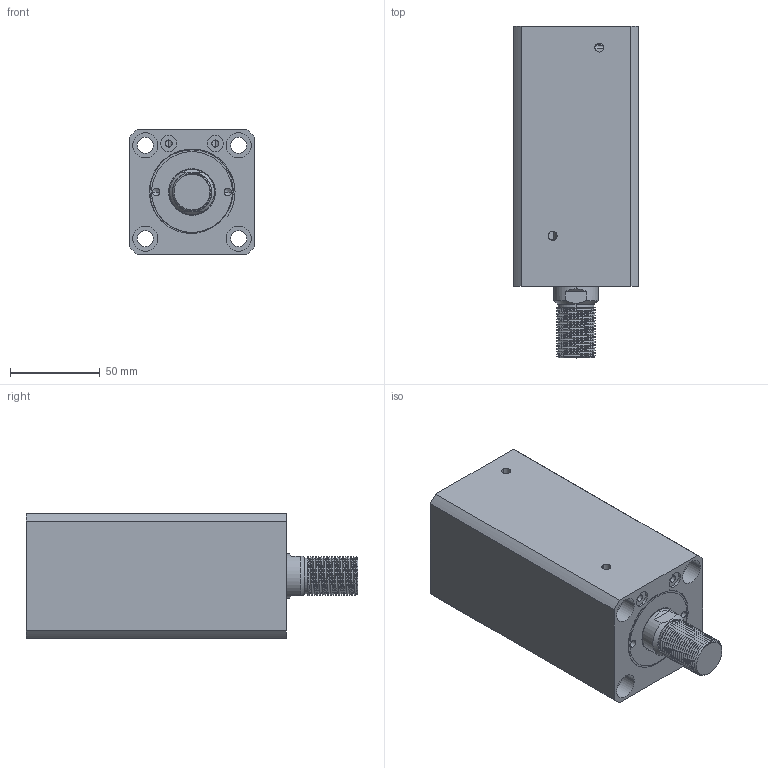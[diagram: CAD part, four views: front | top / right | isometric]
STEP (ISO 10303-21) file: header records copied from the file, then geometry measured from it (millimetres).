
FILE_DESCRIPTION (( 'STEP AP214' ), '1' );
FILE_NAME ('chtb-sdma40x90w_asm.STEP', '2018-06-06T02:34:02', ( 'Windows' ), ( 'Microsoft' ), 'SwSTEP 2.0', 'SolidWorks 2015', '' );
FILE_SCHEMA (( 'AUTOMOTIVE_DESIGN' ));
Length unit declared in the file: millimetre
Products named in the file (4): CHTB-SD40QG; CHTB-SDMA40X90NBT; CHTB-SD40X90WHSG; chtb-sdma40x90w_asm
Assembly tree (3 placements, depth 2):
  chtb-sdma40x90w_asm
    CHTB-SD40X90WHSG
    CHTB-SDMA40X90NBT
    CHTB-SD40QG
Bounding box: 70 x 185 x 70 mm (x, y, z)
Volume: 600765.5 mm3; surface area: 116602.2 mm2
Topology: 3 solids, 4 shells, 203 faces, 545 edges, 363 vertices
Faces by surface type: cylinder 122, plane 40, bspline 16, torus 14, cone 11
Entity records: 13587 total; most frequent: CARTESIAN_POINT 8658, ORIENTED_EDGE 1078, DIRECTION 914, EDGE_CURVE 539, AXIS2_PLACEMENT_3D 378, VERTEX_POINT 363, EDGE_LOOP 240, FACE_OUTER_BOUND 203
